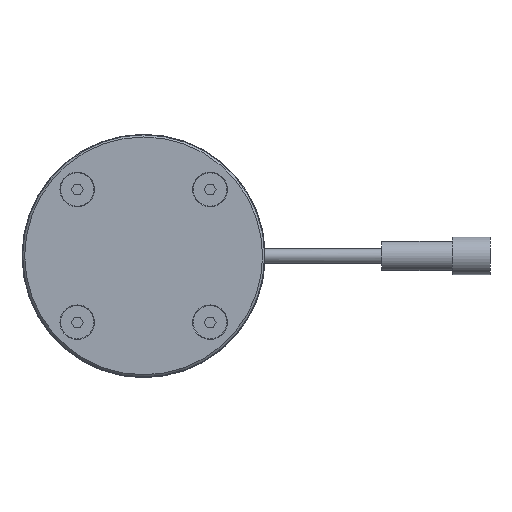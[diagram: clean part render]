
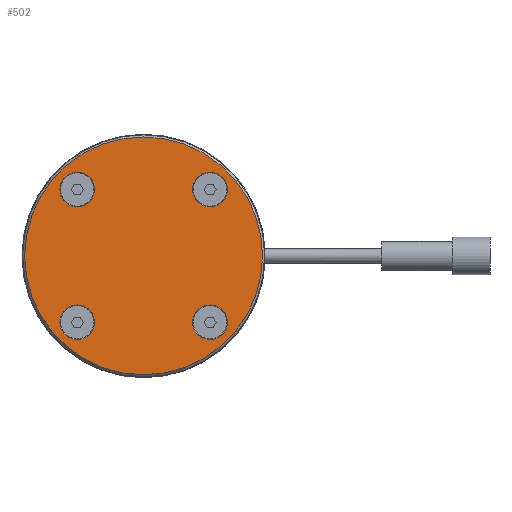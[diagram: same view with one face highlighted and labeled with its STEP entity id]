
A CAD part, top view. The second image highlights one B-rep face of the part: STEP entity #502.
In plain terms, the highlighted planar face has unit normal (0, 0, 1).
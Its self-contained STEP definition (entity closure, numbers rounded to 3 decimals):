
#502=ADVANCED_FACE('',(#1109,#1110,#1111,#1112,#1113),#1114,.F.);
#1109=FACE_BOUND('',#1746,.T.);
#1110=FACE_BOUND('',#1747,.T.);
#1111=FACE_BOUND('',#1748,.T.);
#1112=FACE_BOUND('',#1749,.T.);
#1113=FACE_OUTER_BOUND('',#1750,.T.);
#1114=PLANE('',#1751);
#1746=EDGE_LOOP('',(#2942));
#1747=EDGE_LOOP('',(#2943));
#1748=EDGE_LOOP('',(#2944));
#1749=EDGE_LOOP('',(#2945));
#1750=EDGE_LOOP('',(#2946));
#1751=AXIS2_PLACEMENT_3D('',#2947,#2948,#2949);
#2942=ORIENTED_EDGE('',*,*,#3283,.T.);
#2943=ORIENTED_EDGE('',*,*,#3287,.T.);
#2944=ORIENTED_EDGE('',*,*,#3291,.T.);
#2945=ORIENTED_EDGE('',*,*,#3279,.T.);
#2946=ORIENTED_EDGE('',*,*,#3400,.F.);
#2947=CARTESIAN_POINT('',(0.,-26.5,0.0));
#2948=DIRECTION('',(0.0,0.0,-1.0));
#2949=DIRECTION('',(0.,-1.0,0.0));
#3279=EDGE_CURVE('',#3825,#3825,#3826,.T.);
#3283=EDGE_CURVE('',#3831,#3831,#3832,.T.);
#3287=EDGE_CURVE('',#3837,#3837,#3838,.T.);
#3291=EDGE_CURVE('',#3843,#3843,#3844,.T.);
#3400=EDGE_CURVE('',#4009,#4009,#4010,.T.);
#3825=VERTEX_POINT('',#4704);
#3826=CIRCLE('',#4705,4.15);
#3831=VERTEX_POINT('',#4710);
#3832=CIRCLE('',#4711,4.15);
#3837=VERTEX_POINT('',#4716);
#3838=CIRCLE('',#4717,4.15);
#3843=VERTEX_POINT('',#4722);
#3844=CIRCLE('',#4723,4.15);
#4009=VERTEX_POINT('',#4912);
#4010=CIRCLE('',#4913,28.5);
#4704=CARTESIAN_POINT('',(-11.76,15.91,0.0));
#4705=AXIS2_PLACEMENT_3D('',#5231,#5232,#5233);
#4710=CARTESIAN_POINT('',(20.06,15.91,0.0));
#4711=AXIS2_PLACEMENT_3D('',#5237,#5238,#5239);
#4716=CARTESIAN_POINT('',(20.06,-15.91,0.0));
#4717=AXIS2_PLACEMENT_3D('',#5243,#5244,#5245);
#4722=CARTESIAN_POINT('',(-11.76,-15.91,0.0));
#4723=AXIS2_PLACEMENT_3D('',#5249,#5250,#5251);
#4912=CARTESIAN_POINT('',(0.,-28.5,0.0));
#4913=AXIS2_PLACEMENT_3D('',#5408,#5409,#5410);
#5231=CARTESIAN_POINT('',(-15.91,15.91,0.0));
#5232=DIRECTION('',(0.0,0.0,-1.0));
#5233=DIRECTION('',(1.0,0.0,0.0));
#5237=CARTESIAN_POINT('',(15.91,15.91,0.0));
#5238=DIRECTION('',(0.0,0.0,-1.0));
#5239=DIRECTION('',(1.0,0.0,0.0));
#5243=CARTESIAN_POINT('',(15.91,-15.91,0.0));
#5244=DIRECTION('',(0.0,0.0,-1.0));
#5245=DIRECTION('',(1.0,0.0,0.0));
#5249=CARTESIAN_POINT('',(-15.91,-15.91,0.0));
#5250=DIRECTION('',(0.0,0.0,-1.0));
#5251=DIRECTION('',(1.0,0.0,0.0));
#5408=CARTESIAN_POINT('',(0.0,0.0,0.0));
#5409=DIRECTION('',(0.0,0.0,-1.0));
#5410=DIRECTION('',(0.,-1.0,0.0));
